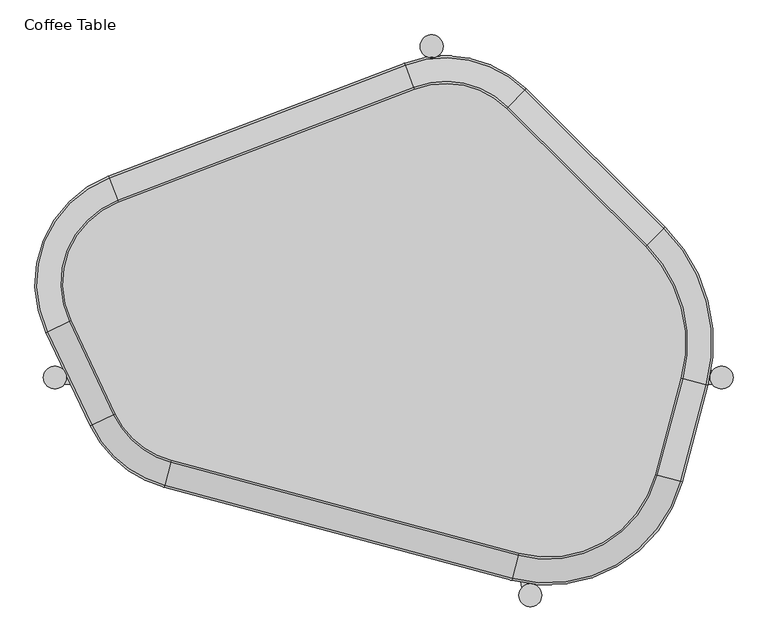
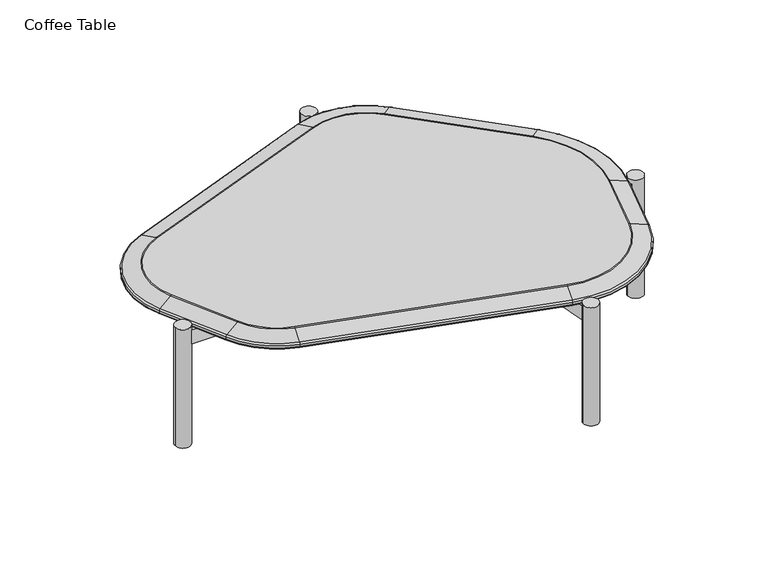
"""IFC4 building model written with IfcOpenShell, lengths in millimetres: furniture geometry, Bolia - Island - Coffee Table : Coffee Table."""

from ifc_helpers import new_model, si_unit, point, frame, origin, place, context, project, spatial, polyline, circle_curve, ellipse_curve, trimmed, source, transform, mapped, element, save
from ifc_brep_helpers import plane_surface, cylinder_surface, revolved_surface, advanced_brep


def coffee_table_8e93f0d2(model_context):
    return source(origin(), model_context, "Body", "AdvancedBrep", [
        advanced_brep(
        [(94.3219868, 12.5169958, 325.0001115), (-674.1552396, 12.5169958, 325.0001115), (-670.0171736, 0.0, 325.0001115), (-674.1426299, -12.499991, 325.0001115), (98.8206312, -12.499991, 325.0001115), (165.8112924, -385.0354313, 325.0001115), (190.4680998, -380.5880957, 325.0001115), (124.2771745, -12.499991, 325.0001115), (515.2895593, -12.499991, 325.0001115), (511.164103, 0.0, 325.0001115), (515.3021691, 12.5169958, 325.0001115), (119.77853, 12.5169958, 325.0001115), (15.3422971, 593.2874688, 325.0001115), (-9.3076646, 588.8020646, 325.0001115), (94.3219868, 12.5169958, 285.0002638), (-9.3076646, 588.8020646, 285.0002638), (15.3422971, 593.2874688, 285.0002638), (119.77853, 12.5169958, 285.0002638), (515.3021691, 12.5169958, 285.0002638), (511.164103, 0.0, 285.0002638), (515.2895593, -12.499991, 285.0002638), (124.2771745, -12.499991, 285.0002638), (190.4680998, -380.5880957, 285.0002638), (165.8112924, -385.0354313, 285.0002638), (98.8206312, -12.499991, 285.0002638), (-674.1426299, -12.499991, 285.0002638), (-670.0171736, 0.0, 285.0002638), (-674.1552396, 12.5169958, 285.0002638), (-712.0171736, 0.0, 338.1383504), (-670.0171736, 0.0, 338.1383504), (-21.0, 607.6267128, 338.1383504), (21.0, 607.6267128, 338.1383504), (511.164103, 0.0, 338.1383504), (553.164103, 0.0, 338.1383504), (160.1314131, -399.3983663, 338.1383504), (202.1314131, -399.3983663, 338.1383504), (-712.0171736, 0.0, 0.0), (-670.0171736, 0.0, 0.0), (-21.0, 607.6267128, 0.0), (21.0, 607.6267128, 0.0), (511.164103, 0.0, 0.0), (553.164103, 0.0, 0.0), (160.1314131, -399.3983663, 0.0), (202.1314131, -399.3983663, 0.0)],
        [
            (0, 1),
            (1, 2, circle_curve(frame((-691.0171736, 0.0, 325.0001115), z_axis=(0.0, 0.0, -1.0), x_axis=(1.0, 0.0, 0.0)), 21.0)),
            (2, 3, circle_curve(frame((-691.0171736, 0.0, 325.0001115), z_axis=(0.0, 0.0, -1.0), x_axis=(1.0, 0.0, 0.0)), 21.0)),
            (3, 4),
            (4, 5),
            (5, 6, circle_curve(frame((181.1314131, -399.3983663, 325.0001115), z_axis=(0.0, 0.0, -1.0), x_axis=(1.0, 0.0, 0.0)), 21.0)),
            (6, 7),
            (7, 8),
            (8, 9, circle_curve(frame((532.164103, 0.0, 325.0001115), z_axis=(0.0, 0.0, -1.0), x_axis=(1.0, 0.0, 0.0)), 21.0)),
            (9, 10, circle_curve(frame((532.164103, 0.0, 325.0001115), z_axis=(0.0, 0.0, -1.0), x_axis=(1.0, 0.0, 0.0)), 21.0)),
            (10, 11),
            (11, 12),
            (12, 13, circle_curve(frame((0.0, 607.6267128, 325.0001115), z_axis=(0.0, 0.0, -1.0), x_axis=(1.0, 0.0, 0.0)), 21.0)),
            (13, 0),
            (14, 15),
            (15, 16, circle_curve(frame((0.0, 607.6267128, 285.0002638), z_axis=(0.0, 0.0, 1.0), x_axis=(1.0, 0.0, 0.0)), 21.0)),
            (16, 17),
            (17, 18),
            (18, 19, circle_curve(frame((532.164103, 0.0, 285.0002638), z_axis=(0.0, 0.0, 1.0), x_axis=(1.0, 0.0, 0.0)), 21.0)),
            (19, 20, circle_curve(frame((532.164103, 0.0, 285.0002638), z_axis=(0.0, 0.0, 1.0), x_axis=(1.0, 0.0, 0.0)), 21.0)),
            (20, 21),
            (21, 22),
            (22, 23, circle_curve(frame((181.1314131, -399.3983663, 285.0002638), z_axis=(0.0, 0.0, 1.0), x_axis=(1.0, 0.0, 0.0)), 21.0)),
            (23, 24),
            (24, 25),
            (25, 26, circle_curve(frame((-691.0171736, 0.0, 285.0002638), z_axis=(0.0, 0.0, 1.0), x_axis=(1.0, 0.0, 0.0)), 21.0)),
            (26, 27, circle_curve(frame((-691.0171736, 0.0, 285.0002638), z_axis=(0.0, 0.0, 1.0), x_axis=(1.0, 0.0, 0.0)), 21.0)),
            (27, 14),
            (0, 14),
            (27, 1),
            (24, 4),
            (3, 25),
            (23, 5),
            (21, 7),
            (6, 22),
            (20, 8),
            (17, 11),
            (10, 18),
            (16, 12),
            (13, 15),
            (28, 29, circle_curve(frame((-691.0171736, 0.0, 338.1383504), z_axis=(0.0, 0.0, 1.0), x_axis=(1.0, 0.0, 0.0)), 21.0)),
            (29, 28, circle_curve(frame((-691.0171736, 0.0, 338.1383504), z_axis=(0.0, 0.0, 1.0), x_axis=(1.0, 0.0, 0.0)), 21.0)),
            (30, 31, circle_curve(frame((0.0, 607.6267128, 338.1383504), z_axis=(0.0, 0.0, 1.0), x_axis=(1.0, 0.0, 0.0)), 21.0)),
            (31, 30, circle_curve(frame((0.0, 607.6267128, 338.1383504), z_axis=(0.0, 0.0, 1.0), x_axis=(1.0, 0.0, 0.0)), 21.0)),
            (32, 33, circle_curve(frame((532.164103, 0.0, 338.1383504), z_axis=(0.0, 0.0, 1.0), x_axis=(1.0, 0.0, 0.0)), 21.0)),
            (33, 32, circle_curve(frame((532.164103, 0.0, 338.1383504), z_axis=(0.0, 0.0, 1.0), x_axis=(1.0, 0.0, 0.0)), 21.0)),
            (34, 35, circle_curve(frame((181.1314131, -399.3983663, 338.1383504), z_axis=(0.0, 0.0, 1.0), x_axis=(1.0, 0.0, 0.0)), 21.0)),
            (35, 34, circle_curve(frame((181.1314131, -399.3983663, 338.1383504), z_axis=(0.0, 0.0, 1.0), x_axis=(1.0, 0.0, 0.0)), 21.0)),
            (36, 37, circle_curve(frame((-691.0171736, 0.0, 0.0), z_axis=(0.0, 0.0, -1.0), x_axis=(1.0, 0.0, 0.0)), 21.0)),
            (37, 36, circle_curve(frame((-691.0171736, 0.0, 0.0), z_axis=(0.0, 0.0, -1.0), x_axis=(1.0, 0.0, 0.0)), 21.0)),
            (38, 39, circle_curve(frame((0.0, 607.6267128, 0.0), z_axis=(0.0, 0.0, -1.0), x_axis=(1.0, 0.0, 0.0)), 21.0)),
            (39, 38, circle_curve(frame((0.0, 607.6267128, 0.0), z_axis=(0.0, 0.0, -1.0), x_axis=(1.0, 0.0, 0.0)), 21.0)),
            (40, 41, circle_curve(frame((532.164103, 0.0, 0.0), z_axis=(0.0, 0.0, -1.0), x_axis=(1.0, 0.0, 0.0)), 21.0)),
            (41, 40, circle_curve(frame((532.164103, 0.0, 0.0), z_axis=(0.0, 0.0, -1.0), x_axis=(1.0, 0.0, 0.0)), 21.0)),
            (42, 43, circle_curve(frame((181.1314131, -399.3983663, 0.0), z_axis=(0.0, 0.0, -1.0), x_axis=(1.0, 0.0, 0.0)), 21.0)),
            (43, 42, circle_curve(frame((181.1314131, -399.3983663, 0.0), z_axis=(0.0, 0.0, -1.0), x_axis=(1.0, 0.0, 0.0)), 21.0)),
            (28, 36),
            (37, 26),
            (2, 29),
            (30, 38),
            (39, 31),
            (32, 9),
            (19, 40),
            (41, 33),
            (34, 42),
            (43, 35),
        ],
        [
            plane_surface(frame((-675.6225144, 12.5169958, 325.0001115), z_axis=(0.0, 0.0, 1.0), x_axis=(-1.0, 0.0, 0.0))),
            plane_surface(frame((-675.6225144, 12.5169958, 285.0002638), z_axis=(0.0, 0.0, -1.0), x_axis=(1.0, 0.0, 0.0))),
            plane_surface(frame((94.3219868, 12.5169958, 325.0001115), z_axis=(0.0, 1.0, 0.0), x_axis=(0.0, 0.0, -1.0))),
            plane_surface(frame((-685.3550178, -12.499991, 325.0001115), z_axis=(0.0, -1.0, 0.0), x_axis=(0.0, 0.0, -1.0))),
            plane_surface(frame((98.8206312, -12.499991, 325.0001115), z_axis=(-0.9842135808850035, -0.1769848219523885, 0.0), x_axis=(0.0, 0.0, -1.0))),
            plane_surface(frame((192.4240819, -391.4653229, 325.0001115), z_axis=(0.9842135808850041, 0.17698482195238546, 0.0), x_axis=(0.0, 0.0, -1.0))),
            plane_surface(frame((124.2771745, -12.499991, 325.0001115), z_axis=(0.0, -1.0, 0.0), x_axis=(0.0, 0.0, -1.0))),
            plane_surface(frame((522.4056366, 12.5169958, 325.0001115), z_axis=(0.0, 1.0, 0.0), x_axis=(0.0, 0.0, -1.0))),
            plane_surface(frame((119.77853, 12.5169958, 325.0001115), z_axis=(0.9842135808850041, 0.1769848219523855, 0.0), x_axis=(0.0, 0.0, -1.0))),
            plane_surface(frame((-12.1842137, 604.7985702, 325.0001115), z_axis=(-0.9842135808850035, -0.17698482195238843, 0.0), x_axis=(0.0, 0.0, -1.0))),
            plane_surface(frame((-670.0171736, 0.0, 338.1383504), z_axis=(0.0, 0.0, 1.0), x_axis=(0.0, 1.0, 0.0))),
            plane_surface(frame((-670.0171736, 0.0, 0.0), z_axis=(0.0, 0.0, -1.0), x_axis=(0.0, -1.0, 0.0))),
            cylinder_surface(frame((-691.0171736, 0.0, 0.0), z_axis=(0.0, 0.0, 1.0), x_axis=(1.0, 0.0, 0.0)), 21.0),
            cylinder_surface(frame((0.0, 607.6267128, 0.0), z_axis=(0.0, 0.0, 1.0), x_axis=(1.0, 0.0, 0.0)), 21.0),
            cylinder_surface(frame((532.164103, 0.0, 0.0), z_axis=(0.0, 0.0, 1.0), x_axis=(1.0, 0.0, 0.0)), 21.0),
            cylinder_surface(frame((181.1314131, -399.3983663, 0.0), z_axis=(0.0, 0.0, 1.0), x_axis=(1.0, 0.0, 0.0)), 21.0),
        ],
        [
            (0, [[1, 2, 3, 4, 5, 6, 7, 8, 9, 10, 11, 12, 13, 14]]),
            (1, [[15, 16, 17, 18, 19, 20, 21, 22, 23, 24, 25, 26, 27, 28]]),
            (2, [[29, -28, 30, -1]]),
            (3, [[31, -4, 32, -25]]),
            (4, [[-31, -24, 33, -5]]),
            (5, [[34, -7, 35, -22]]),
            (6, [[-34, -21, 36, -8]]),
            (7, [[37, -11, 38, -18]]),
            (8, [[-37, -17, 39, -12]]),
            (9, [[-29, -14, 40, -15]]),
            (10, [[41, 42]]),
            (10, [[43, 44]]),
            (10, [[45, 46]]),
            (10, [[47, 48]]),
            (11, [[49, 50]]),
            (11, [[51, 52]]),
            (11, [[53, 54]]),
            (11, [[55, 56]]),
            (12, [[-41, 57, -50, 58, -26, -32, -3, 59]]),
            (12, [[-42, -59, -2, -30, -27, -58, -49, -57]]),
            (13, [[-43, 60, -52, 61], [-13, -39, -16, -40]]),
            (13, [[-44, -61, -51, -60]]),
            (14, [[-45, 62, -9, -36, -20, 63, -54, 64]]),
            (14, [[-46, -64, -53, -63, -19, -38, -10, -62]]),
            (15, [[-47, 65, -56, 66]]),
            (15, [[-48, -66, -55, -65], [-6, -33, -23, -35]]),
        ],
    ),
        advanced_brep(
        [(-574.4524919, 321.4086629, 350.000039), (-661.2825402, 104.7602623, 350.000039), (-580.0053478, -66.2984619, 350.000039), (-477.6019635, -151.5960215, 350.000039), (160.3613364, -322.5378677, 350.000039), (410.0998783, -178.3512765, 350.000039), (457.5865801, -1.1284924, 350.000039), (392.7238419, 239.7395526, 350.000039), (137.9488708, 493.2456689, 350.000039), (-30.8395231, 529.0487896, 350.000039), (-706.6368774, 83.2105097, 325.0001115), (-592.3697043, 368.3168844, 325.0001115), (-48.7567356, 575.9570111, 325.0001115), (173.3665156, 528.8405869, 325.0001115), (428.1414867, 275.3344706, 325.0001115), (506.0892136, -14.1247339, 325.0001115), (458.6025118, -191.3475179, 325.0001115), (147.3650881, -371.0404994, 325.0001115), (-490.5982117, -200.0986532, 325.0001115), (-625.359685, -87.8482145, 325.0001115), (428.7591776, 275.9552532, 333.5931385), (428.7591776, 275.9552532, 327.8268488), (173.9842064, 529.4613694, 327.8268488), (173.9842064, 529.4613694, 333.593135), (-49.0692154, 576.7750999, 327.8268488), (-49.0692154, 576.7750999, 333.5931354), (-592.6821841, 369.1349732, 327.8268488), (-592.6821841, 369.1349732, 333.5931357), (-707.4278662, 82.8346776, 327.8268488), (-707.4278662, 82.8346776, 333.5931354), (-626.1506738, -88.2240466, 327.8268488), (-626.1506738, -88.2240466, 333.593135), (-490.8248689, -200.9445488, 327.8268488), (-490.8248689, -200.9445488, 333.5931354), (147.138431, -371.886395, 327.8268488), (147.138431, -371.886395, 333.593135), (459.4484075, -191.574175, 327.8268488), (459.4484075, -191.574175, 333.5931348), (506.9351093, -14.351391, 327.8268488), (506.9351093, -14.351391, 333.593135), (-704.0037216, 84.4616327, 338.4447678), (-664.8497783, 103.0653175, 349.2469963), (-575.8617278, 325.0981181, 349.2469963), (-591.3294772, 365.593514, 338.4447678), (-622.7265291, -86.5970915, 338.4447678), (-583.5725859, -67.9934067, 349.2469963), (-489.8436831, -197.2827154, 338.4447678), (-478.6241527, -155.4108813, 349.2469963), (148.1196168, -368.2245616, 338.4447678), (159.3391472, -326.3527275, 349.2469963), (455.7865739, -190.5929897, 338.4447678), (413.9147382, -179.3734651, 349.2469963), (503.2732758, -13.3702056, 338.4447678), (461.4014401, -2.1506811, 349.2469963), (426.0852296, 273.2679215, 338.4447678), (395.5095331, 242.5391867, 349.2469963), (171.3102584, 526.7740378, 338.4447678), (140.7345619, 496.045303, 349.2469963), (-47.7165084, 573.2336407, 338.4447678), (-32.2487591, 532.7382448, 349.2469963)],
        [
            (0, 1, circle_curve(frame((-517.7500336, 172.9585913, 350.000039), z_axis=(0.0, 0.0, 1.0), x_axis=(-0.35681976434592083, 0.9341732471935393, 0.0)), 158.9106432)),
            (1, 2),
            (2, 3, circle_curve(frame((-436.4728412, 1.8998671, 350.000039), z_axis=(0.0, 0.0, 1.0), x_axis=(-0.9032277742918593, -0.4291614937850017, 0.0)), 158.9106432)),
            (3, 4),
            (4, 5, circle_curve(frame((213.1373218, -125.5753185, 350.000039), z_axis=(0.0, 0.0, 1.0), x_axis=(-0.2588191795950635, -0.9659257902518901, 0.0)), 203.9106432)),
            (5, 6),
            (6, 7, circle_curve(frame((217.1573614, 63.2943226, 350.000039), z_axis=(0.0, 0.0, 1.0), x_axis=(0.9659258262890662, -0.2588190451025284, 0.0)), 248.9106432)),
            (7, 8),
            (8, 9, circle_curve(frame((25.8629351, 380.598718, 350.000039), z_axis=(0.0, 0.0, 1.0), x_axis=(0.7053393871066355, 0.7088697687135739, 0.0)), 158.9106432)),
            (9, 0),
            (10, 11, circle_curve(frame((-517.7500336, 172.9585913, 325.0001115), z_axis=(0.0, 0.0, -1.0), x_axis=(-0.35681976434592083, 0.9341732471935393, 0.0)), 209.1242643)),
            (11, 12),
            (12, 13, circle_curve(frame((25.8629351, 380.598718, 325.0001115), z_axis=(0.0, 0.0, -1.0), x_axis=(0.7053393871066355, 0.7088697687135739, 0.0)), 209.1242643)),
            (13, 14),
            (14, 15, circle_curve(frame((217.1573614, 63.2943226, 325.0001115), z_axis=(0.0, 0.0, -1.0), x_axis=(0.9659258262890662, -0.2588190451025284, 0.0)), 299.1242643)),
            (15, 16),
            (16, 17, circle_curve(frame((213.1373218, -125.5753185, 325.0001115), z_axis=(0.0, 0.0, -1.0), x_axis=(-0.2588191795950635, -0.9659257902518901, 0.0)), 254.1242643)),
            (17, 18),
            (18, 19, circle_curve(frame((-436.4728412, 1.8998671, 325.0001115), z_axis=(0.0, 0.0, -1.0), x_axis=(-0.9032277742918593, -0.4291614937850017, 0.0)), 209.1242643)),
            (19, 10),
            (20, 21),
            (21, 22),
            (22, 23),
            (23, 20),
            (22, 24, circle_curve(frame((25.8629351, 380.598718, 327.8268488), z_axis=(0.0, 0.0, 1.0), x_axis=(1.0, 0.0, 0.0)), 210.0)),
            (24, 25),
            (25, 23, circle_curve(frame((25.8629351, 380.598718, 333.593135), z_axis=(0.0, 0.0, -1.0), x_axis=(1.0, 0.0, 0.0)), 210.0)),
            (24, 26),
            (26, 27),
            (27, 25),
            (26, 28, circle_curve(frame((-517.7500336, 172.9585913, 327.8268488), z_axis=(0.0, 0.0, 1.0), x_axis=(1.0, 0.0, 0.0)), 210.0)),
            (28, 29),
            (29, 27, circle_curve(frame((-517.7500336, 172.9585913, 333.593135), z_axis=(0.0, 0.0, -1.0), x_axis=(1.0, 0.0, 0.0)), 210.0)),
            (28, 30),
            (30, 31),
            (31, 29),
            (30, 32, circle_curve(frame((-436.4728412, 1.8998671, 327.8268488), z_axis=(0.0, 0.0, 1.0), x_axis=(1.0, 0.0, 0.0)), 210.0)),
            (32, 33),
            (33, 31, circle_curve(frame((-436.4728412, 1.8998671, 333.593135), z_axis=(0.0, 0.0, -1.0), x_axis=(1.0, 0.0, 0.0)), 210.0)),
            (32, 34),
            (34, 35),
            (35, 33),
            (34, 36, circle_curve(frame((213.1373218, -125.5753185, 327.8268488), z_axis=(0.0, 0.0, 1.0), x_axis=(1.0, 0.0, 0.0)), 255.0)),
            (36, 37),
            (37, 35, circle_curve(frame((213.1373218, -125.5753185, 333.593135), z_axis=(0.0, 0.0, -1.0), x_axis=(1.0, 0.0, 0.0)), 255.0)),
            (36, 38),
            (38, 39),
            (39, 37),
            (20, 39, circle_curve(frame((217.1573614, 63.2943226, 333.593135), z_axis=(0.0, 0.0, -1.0), x_axis=(1.0, 0.0, 0.0)), 300.0)),
            (38, 21, circle_curve(frame((217.1573614, 63.2943226, 327.8268488), z_axis=(0.0, 0.0, 1.0), x_axis=(1.0, 0.0, 0.0)), 300.0)),
            (40, 41),
            (41, 42, circle_curve(frame((-517.7500336, 172.9585913, 349.2469963), z_axis=(0.0, 0.0, -1.0), x_axis=(-0.35681976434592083, 0.9341732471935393, 0.0)), 162.8600768)),
            (42, 43),
            (43, 40, circle_curve(frame((-517.7500336, 172.9585913, 338.4447678), z_axis=(0.0, 0.0, 1.0), x_axis=(-0.35681976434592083, 0.9341732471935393, 0.0)), 206.208991)),
            (40, 44),
            (44, 45),
            (45, 41),
            (44, 46, circle_curve(frame((-436.4728412, 1.8998671, 338.4447678), z_axis=(0.0, 0.0, 1.0), x_axis=(-0.9032277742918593, -0.4291614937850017, 0.0)), 206.208991)),
            (46, 47),
            (47, 45, circle_curve(frame((-436.4728412, 1.8998671, 349.2469963), z_axis=(0.0, 0.0, -1.0), x_axis=(-0.9032277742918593, -0.4291614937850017, 0.0)), 162.8600768)),
            (46, 48),
            (48, 49),
            (49, 47),
            (48, 50, circle_curve(frame((213.1373218, -125.5753185, 338.4447678), z_axis=(0.0, 0.0, 1.0), x_axis=(-0.2588191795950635, -0.9659257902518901, 0.0)), 251.208991)),
            (50, 51),
            (51, 49, circle_curve(frame((213.1373218, -125.5753185, 349.2469963), z_axis=(0.0, 0.0, -1.0), x_axis=(-0.2588191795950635, -0.9659257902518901, 0.0)), 207.8600768)),
            (50, 52),
            (52, 53),
            (53, 51),
            (52, 54, circle_curve(frame((217.1573614, 63.2943226, 338.4447678), z_axis=(0.0, 0.0, 1.0), x_axis=(0.9659258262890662, -0.2588190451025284, 0.0)), 296.208991)),
            (54, 55),
            (55, 53, circle_curve(frame((217.1573614, 63.2943226, 349.2469963), z_axis=(0.0, 0.0, -1.0), x_axis=(0.9659258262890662, -0.2588190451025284, 0.0)), 252.8600768)),
            (54, 56),
            (56, 57),
            (57, 55),
            (56, 58, circle_curve(frame((25.8629351, 380.598718, 338.4447678), z_axis=(0.0, 0.0, 1.0), x_axis=(0.7053393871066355, 0.7088697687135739, 0.0)), 206.208991)),
            (58, 59),
            (59, 57, circle_curve(frame((25.8629351, 380.598718, 349.2469963), z_axis=(0.0, 0.0, -1.0), x_axis=(0.7053393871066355, 0.7088697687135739, 0.0)), 162.8600768)),
            (42, 59),
            (58, 43),
            (43, 27, circle_curve(frame((-590.8980853, 364.464107, 333.593135), z_axis=(-0.9341732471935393, -0.35681976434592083, 0.0), x_axis=(0.35681976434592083, -0.9341732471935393, 0.0)), 5.0)),
            (29, 40, circle_curve(frame((-702.9117273, 84.9804851, 333.593135), z_axis=(-0.4291614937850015, 0.9032277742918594, 0.0), x_axis=(0.9032277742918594, 0.4291614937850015, 0.0)), 5.0)),
            (10, 28, circle_curve(frame((-702.9117273, 84.9804851, 327.8268488), z_axis=(-0.42916149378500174, 0.9032277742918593, 0.0), x_axis=(0.9032277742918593, 0.42916149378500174, 0.0)), 5.0)),
            (26, 11, circle_curve(frame((-590.8980853, 364.464107, 327.8268488), z_axis=(-0.9341732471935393, -0.35681976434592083, 0.0), x_axis=(0.35681976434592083, -0.9341732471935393, 0.0)), 5.0)),
            (31, 44, circle_curve(frame((-621.6345349, -86.0782391, 333.593135), z_axis=(-0.4291614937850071, 0.9032277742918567, 0.0), x_axis=(0.9032277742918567, 0.4291614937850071, 0.0)), 5.0)),
            (19, 30, circle_curve(frame((-621.6345349, -86.0782391, 327.8268488), z_axis=(-0.4291614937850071, 0.9032277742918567, 0.0), x_axis=(0.9032277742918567, 0.4291614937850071, 0.0)), 5.0)),
            (33, 46, circle_curve(frame((-489.530773, -196.1149199, 333.593135), z_axis=(-0.9659257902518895, 0.25881917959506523, 0.0), x_axis=(0.25881917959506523, 0.9659257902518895, 0.0)), 5.0)),
            (18, 32, circle_curve(frame((-489.530773, -196.1149199, 327.8268488), z_axis=(-0.9659257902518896, 0.25881917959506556, 0.0), x_axis=(0.25881917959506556, 0.9659257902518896, 0.0)), 5.0)),
            (35, 48, circle_curve(frame((148.4325269, -367.0567661, 333.593135), z_axis=(-0.9659257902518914, 0.2588191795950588, 0.0), x_axis=(0.2588191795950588, 0.9659257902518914, 0.0)), 5.0)),
            (17, 34, circle_curve(frame((148.4325269, -367.0567661, 327.8268488), z_axis=(-0.9659257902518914, 0.2588191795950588, 0.0), x_axis=(0.2588191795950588, 0.9659257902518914, 0.0)), 5.0)),
            (37, 50, circle_curve(frame((454.6187783, -190.2800798, 333.593135), z_axis=(-0.25881904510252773, -0.9659258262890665, 0.0), x_axis=(-0.9659258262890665, 0.25881904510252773, 0.0)), 5.0)),
            (16, 36, circle_curve(frame((454.6187783, -190.2800798, 327.8268488), z_axis=(-0.2588190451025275, -0.9659258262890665, 0.0), x_axis=(-0.9659258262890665, 0.2588190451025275, 0.0)), 5.0)),
            (39, 52, circle_curve(frame((502.1054802, -13.0572957, 333.593135), z_axis=(-0.25881904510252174, -0.9659258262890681, 0.0), x_axis=(-0.9659258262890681, 0.25881904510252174, 0.0)), 5.0)),
            (15, 38, circle_curve(frame((502.1054802, -13.0572957, 327.8268488), z_axis=(-0.25881904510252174, -0.9659258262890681, 0.0), x_axis=(-0.9659258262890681, 0.25881904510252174, 0.0)), 5.0)),
            (20, 54, circle_curve(frame((425.2324806, 272.4109043, 333.593135), z_axis=(0.7088697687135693, -0.70533938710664, 0.0), x_axis=(-0.70533938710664, -0.7088697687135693, 0.0)), 5.0)),
            (14, 21, circle_curve(frame((425.2324806, 272.4109043, 327.8268488), z_axis=(0.7088697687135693, -0.70533938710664, 0.0), x_axis=(-0.70533938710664, -0.7088697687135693, 0.0)), 5.0)),
            (23, 56, circle_curve(frame((170.4575095, 525.9170206, 333.593135), z_axis=(0.7088697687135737, -0.7053393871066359, 0.0), x_axis=(-0.7053393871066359, -0.7088697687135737, 0.0)), 5.0)),
            (13, 22, circle_curve(frame((170.4575095, 525.9170206, 327.8268488), z_axis=(0.7088697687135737, -0.7053393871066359, 0.0), x_axis=(-0.7053393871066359, -0.7088697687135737, 0.0)), 5.0)),
            (25, 58, circle_curve(frame((-47.2851166, 572.1042337, 333.593135), z_axis=(0.9341732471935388, 0.3568197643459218, 0.0), x_axis=(0.3568197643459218, -0.9341732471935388, 0.0)), 5.0)),
            (12, 24, circle_curve(frame((-47.2851166, 572.1042337, 327.8268488), z_axis=(0.9341732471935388, 0.3568197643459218, 0.0), x_axis=(0.3568197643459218, -0.9341732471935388, 0.0)), 5.0)),
            (41, 1, circle_curve(frame((-656.9787721, 106.8051635, 314.2768191), z_axis=(-0.42916149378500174, 0.9032277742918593, 0.0), x_axis=(0.9032277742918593, 0.42916149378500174, 0.0)), 36.039596)),
            (0, 42, circle_curve(frame((-572.7522901, 316.9574435, 314.2768191), z_axis=(-0.9341732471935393, -0.35681976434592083, 0.0), x_axis=(0.35681976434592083, -0.9341732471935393, 0.0)), 36.039596)),
            (45, 2, circle_curve(frame((-575.7015797, -64.2535607, 314.2768191), z_axis=(-0.4291614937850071, 0.9032277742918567, 0.0), x_axis=(0.9032277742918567, 0.4291614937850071, 0.0)), 36.039596)),
            (47, 3, circle_curve(frame((-476.3687223, -146.9935052, 314.2768191), z_axis=(-0.9659257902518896, 0.25881917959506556, 0.0), x_axis=(0.25881917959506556, 0.9659257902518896, 0.0)), 36.039596)),
            (49, 4, circle_curve(frame((161.5945776, -317.9353514, 314.2768191), z_axis=(-0.9659257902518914, 0.2588191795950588, 0.0), x_axis=(0.2588191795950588, 0.9659257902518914, 0.0)), 36.039596)),
            (51, 5, circle_curve(frame((405.4973618, -177.1180359, 314.2768191), z_axis=(-0.25881904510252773, -0.9659258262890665, 0.0), x_axis=(-0.9659258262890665, 0.25881904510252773, 0.0)), 36.039596)),
            (53, 6, circle_curve(frame((452.9840637, 0.1047481, 314.2768191), z_axis=(-0.25881904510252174, -0.9659258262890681, 0.0), x_axis=(-0.9659258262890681, 0.25881904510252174, 0.0)), 36.039596)),
            (55, 7, circle_curve(frame((389.3629875, 236.3618763, 314.2768191), z_axis=(0.7088697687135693, -0.70533938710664, 0.0), x_axis=(-0.70533938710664, -0.7088697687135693, 0.0)), 36.039596)),
            (57, 8, circle_curve(frame((134.5880163, 489.8679926, 314.2768191), z_axis=(0.7088697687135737, -0.7053393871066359, 0.0), x_axis=(-0.7053393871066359, -0.7088697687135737, 0.0)), 36.039596)),
            (59, 9, circle_curve(frame((-29.1393213, 524.5975702, 314.2768191), z_axis=(0.9341732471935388, 0.3568197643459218, 0.0), x_axis=(0.3568197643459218, -0.9341732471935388, 0.0)), 36.039596)),
        ],
        [
            plane_surface(frame((-170.9690123, 872.6966189, 350.000039), z_axis=(0.0, 0.0, 1.0000000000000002), x_axis=(-0.7088697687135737, 0.7053393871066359, 0.0))),
            plane_surface(frame((-170.9690123, 872.6966189, 325.0001115), z_axis=(0.0, 0.0, -1.0000000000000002), x_axis=(0.7088697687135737, -0.7053393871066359, 0.0))),
            plane_surface(frame((428.7591776, 275.9552532, 350.000039), z_axis=(0.7053393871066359, 0.7088697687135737, 0.0), x_axis=(0.0, 0.0, -1.0))),
            cylinder_surface(frame((25.8629351, 380.598718, 325.0001115), z_axis=(0.0, 0.0, 1.0), x_axis=(1.0, 0.0, 0.0)), 210.0),
            plane_surface(frame((-49.0692154, 576.7750999, 350.000039), z_axis=(-0.35681976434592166, 0.934173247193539, 0.0), x_axis=(0.0, 0.0, -1.0))),
            cylinder_surface(frame((-517.7500336, 172.9585913, 325.0001115), z_axis=(0.0, 0.0, 1.0), x_axis=(1.0, 0.0, 0.0)), 210.0),
            plane_surface(frame((-707.4278662, 82.8346776, 350.000039), z_axis=(-0.9032277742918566, -0.4291614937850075, 0.0), x_axis=(0.0, 0.0, -1.0))),
            cylinder_surface(frame((-436.4728412, 1.8998671, 325.0001115), z_axis=(0.0, 0.0, 1.0), x_axis=(1.0, 0.0, 0.0)), 210.0),
            plane_surface(frame((-490.8248689, -200.9445488, 350.000039), z_axis=(-0.25881917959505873, -0.9659257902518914, 0.0), x_axis=(0.0, 0.0, -1.0))),
            cylinder_surface(frame((213.1373218, -125.5753185, 325.0001115), z_axis=(0.0, 0.0, 1.0), x_axis=(1.0, 0.0, 0.0)), 255.0),
            plane_surface(frame((459.4484075, -191.574175, 350.000039), z_axis=(0.965925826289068, -0.2588190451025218, 0.0), x_axis=(0.0, 0.0, -1.0))),
            cylinder_surface(frame((217.1573614, 63.2943226, 325.0001115), z_axis=(0.0, 0.0, 1.0), x_axis=(1.0, 0.0, 0.0)), 300.0),
            revolved_surface(polyline([(-591.3294772, 365.593514, 338.4447678), (-575.8617278, 325.0981181, 349.2469963)]), (-517.7500336, 172.9585913, 0.0), (0.0, 0.0, 1.0)),
            plane_surface(frame((-664.8497783, 103.0653175, 349.2469963), z_axis=(-0.21839884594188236, -0.10377047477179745, 0.9703265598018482), x_axis=(0.4291614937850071, -0.9032277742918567, 0.0))),
            revolved_surface(polyline([(-622.7265291, -86.5970915, 338.4447678), (-583.5725859, -67.9934067, 349.2469963)]), (-436.4728412, 1.8998671, 0.0), (0.0, 0.0, 1.0)),
            plane_surface(frame((-478.6241527, -155.4108813, 349.2469963), z_axis=(-0.06258201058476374, -0.2335591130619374, 0.9703265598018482), x_axis=(0.9659257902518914, -0.2588191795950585, 0.0))),
            revolved_surface(polyline([(148.1196168, -368.2245616, 338.4447678), (159.3391472, -326.3527275, 349.2469963)]), (213.1373218, -125.5753185, 0.0), (0.0, 0.0, 1.0)),
            plane_surface(frame((413.9147382, -179.3734651, 349.2469963), z_axis=(0.23355912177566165, -0.06258197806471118, 0.9703265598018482), x_axis=(0.25881904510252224, 0.9659258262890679, 0.0))),
            revolved_surface(polyline([(503.2732758, -13.3702056, 338.4447678), (461.4014401, -2.1506811, 349.2469963)]), (217.1573614, 63.2943226, 0.0), (0.0, 0.0, 1.0)),
            plane_surface(frame((395.5095331, 242.5391867, 349.2469963), z_axis=(0.17054979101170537, 0.17140343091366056, 0.9703265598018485), x_axis=(-0.7088697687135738, 0.7053393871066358, 0.0))),
            revolved_surface(polyline([(171.3102584, 526.7740378, 338.4447678), (140.7345619, 496.045303, 349.2469963)]), (25.8629351, 380.598718, 0.0), (0.0, 0.0, 1.0)),
            plane_surface(frame((-32.2487591, 532.7382448, 349.2469963), z_axis=(-0.08627837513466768, 0.22588140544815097, 0.9703265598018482), x_axis=(-0.934173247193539, -0.3568197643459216, 0.0))),
            revolved_surface(trimmed(ellipse_curve(frame((-590.8980853, 364.464107, 333.593135), z_axis=(0.9341732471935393, 0.35681976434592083, 0.0), x_axis=(0.35681976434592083, -0.9341732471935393, 0.0)), 5.0, 5.0), [point((-592.6821841, 369.1349732, 333.593135))], [point((-591.3294772, 365.593514, 338.4447678))], True, "CARTESIAN"), (-517.7500336, 172.9585913, 0.0), (0.0, 0.0, 1.0)),
            revolved_surface(trimmed(ellipse_curve(frame((-590.8980853, 364.464107, 327.8268488), z_axis=(0.9341732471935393, 0.35681976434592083, 0.0), x_axis=(0.35681976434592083, -0.9341732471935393, 0.0)), 5.0, 5.0), [point((-591.3294772, 365.593514, 322.975216))], [point((-592.6821841, 369.1349732, 327.8268488))], True, "CARTESIAN"), (-517.7500336, 172.9585913, 0.0), (0.0, 0.0, 1.0)),
            cylinder_surface(frame((-702.9117273, 84.9804851, 333.593135), z_axis=(0.4291614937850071, -0.9032277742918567, 0.0), x_axis=(0.9032277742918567, 0.4291614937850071, 0.0)), 5.0),
            cylinder_surface(frame((-702.9117273, 84.9804851, 327.8268488), z_axis=(0.4291614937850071, -0.9032277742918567, 0.0), x_axis=(0.9032277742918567, 0.4291614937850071, 0.0)), 5.0),
            revolved_surface(trimmed(ellipse_curve(frame((-621.6345349, -86.0782391, 333.593135), z_axis=(-0.4291614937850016, 0.9032277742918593, 0.0), x_axis=(0.9032277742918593, 0.4291614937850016, 0.0)), 5.0, 5.0), [point((-626.1506738, -88.2240466, 333.593135))], [point((-622.7265291, -86.5970915, 338.4447678))], True, "CARTESIAN"), (-436.4728412, 1.8998671, 0.0), (0.0, 0.0, 1.0)),
            revolved_surface(trimmed(ellipse_curve(frame((-621.6345349, -86.0782391, 327.8268488), z_axis=(-0.4291614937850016, 0.9032277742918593, 0.0), x_axis=(0.9032277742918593, 0.4291614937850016, 0.0)), 5.0, 5.0), [point((-622.7265291, -86.5970915, 322.975216))], [point((-626.1506738, -88.2240466, 327.8268488))], True, "CARTESIAN"), (-436.4728412, 1.8998671, 0.0), (0.0, 0.0, 1.0)),
            cylinder_surface(frame((-489.530773, -196.1149199, 333.593135), z_axis=(0.9659257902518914, -0.2588191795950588, 0.0), x_axis=(0.2588191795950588, 0.9659257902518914, 0.0)), 5.0),
            cylinder_surface(frame((-489.530773, -196.1149199, 327.8268488), z_axis=(0.9659257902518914, -0.2588191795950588, 0.0), x_axis=(0.2588191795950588, 0.9659257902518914, 0.0)), 5.0),
            revolved_surface(trimmed(ellipse_curve(frame((148.4325269, -367.0567661, 333.593135), z_axis=(-0.9659257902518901, 0.25881917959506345, 0.0), x_axis=(0.25881917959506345, 0.9659257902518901, 0.0)), 5.0, 5.0), [point((147.138431, -371.886395, 333.593135))], [point((148.1196168, -368.2245616, 338.4447678))], True, "CARTESIAN"), (213.1373218, -125.5753185, 0.0), (0.0, 0.0, 1.0)),
            revolved_surface(trimmed(ellipse_curve(frame((148.4325269, -367.0567661, 327.8268488), z_axis=(-0.9659257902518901, 0.25881917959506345, 0.0), x_axis=(0.25881917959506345, 0.9659257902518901, 0.0)), 5.0, 5.0), [point((148.1196168, -368.2245616, 322.975216))], [point((147.138431, -371.886395, 327.8268488))], True, "CARTESIAN"), (213.1373218, -125.5753185, 0.0), (0.0, 0.0, 1.0)),
            cylinder_surface(frame((454.6187783, -190.2800798, 333.593135), z_axis=(0.25881904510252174, 0.9659258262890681, 0.0), x_axis=(-0.9659258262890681, 0.25881904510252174, 0.0)), 5.0),
            cylinder_surface(frame((454.6187783, -190.2800798, 327.8268488), z_axis=(0.25881904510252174, 0.9659258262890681, 0.0), x_axis=(-0.9659258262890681, 0.25881904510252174, 0.0)), 5.0),
            revolved_surface(trimmed(ellipse_curve(frame((502.1054802, -13.0572957, 333.593135), z_axis=(-0.2588190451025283, -0.9659258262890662, 0.0), x_axis=(-0.9659258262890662, 0.2588190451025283, 0.0)), 5.0, 5.0), [point((506.9351093, -14.351391, 333.593135))], [point((503.2732758, -13.3702056, 338.4447678))], True, "CARTESIAN"), (217.1573614, 63.2943226, 0.0), (0.0, 0.0, 1.0)),
            revolved_surface(trimmed(ellipse_curve(frame((502.1054802, -13.0572957, 327.8268488), z_axis=(-0.2588190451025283, -0.9659258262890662, 0.0), x_axis=(-0.9659258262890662, 0.2588190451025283, 0.0)), 5.0, 5.0), [point((503.2732758, -13.3702056, 322.975216))], [point((506.9351093, -14.351391, 327.8268488))], True, "CARTESIAN"), (217.1573614, 63.2943226, 0.0), (0.0, 0.0, 1.0)),
            cylinder_surface(frame((425.2324806, 272.4109043, 333.593135), z_axis=(-0.7088697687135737, 0.7053393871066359, 0.0), x_axis=(-0.7053393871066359, -0.7088697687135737, 0.0)), 5.0),
            cylinder_surface(frame((425.2324806, 272.4109043, 327.8268488), z_axis=(-0.7088697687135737, 0.7053393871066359, 0.0), x_axis=(-0.7053393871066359, -0.7088697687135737, 0.0)), 5.0),
            revolved_surface(trimmed(ellipse_curve(frame((170.4575095, 525.9170206, 333.593135), z_axis=(0.7088697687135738, -0.7053393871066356, 0.0), x_axis=(-0.7053393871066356, -0.7088697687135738, 0.0)), 5.0, 5.0), [point((173.9842064, 529.4613694, 333.593135))], [point((171.3102584, 526.7740378, 338.4447678))], True, "CARTESIAN"), (25.8629351, 380.598718, 0.0), (0.0, 0.0, 1.0)),
            revolved_surface(trimmed(ellipse_curve(frame((170.4575095, 525.9170206, 327.8268488), z_axis=(0.7088697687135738, -0.7053393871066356, 0.0), x_axis=(-0.7053393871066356, -0.7088697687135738, 0.0)), 5.0, 5.0), [point((171.3102584, 526.7740378, 322.975216))], [point((173.9842064, 529.4613694, 327.8268488))], True, "CARTESIAN"), (25.8629351, 380.598718, 0.0), (0.0, 0.0, 1.0)),
            cylinder_surface(frame((-47.2851166, 572.1042337, 333.593135), z_axis=(-0.9341732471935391, -0.3568197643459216, 0.0), x_axis=(0.3568197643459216, -0.9341732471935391, 0.0)), 5.0),
            cylinder_surface(frame((-47.2851166, 572.1042337, 327.8268488), z_axis=(-0.9341732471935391, -0.3568197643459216, 0.0), x_axis=(0.3568197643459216, -0.9341732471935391, 0.0)), 5.0),
            revolved_surface(trimmed(ellipse_curve(frame((-572.7522901, 316.9574435, 314.2768191), z_axis=(0.9341732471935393, 0.35681976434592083, 0.0), x_axis=(0.35681976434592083, -0.9341732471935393, 0.0)), 36.039596, 36.039596), [point((-575.8617278, 325.0981181, 349.2469963))], [point((-574.4524919, 321.4086629, 350.000039))], True, "CARTESIAN"), (-517.7500336, 172.9585913, 0.0), (0.0, 0.0, 1.0)),
            cylinder_surface(frame((-656.9787721, 106.8051635, 314.2768191), z_axis=(0.4291614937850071, -0.9032277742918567, 0.0), x_axis=(0.9032277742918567, 0.4291614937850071, 0.0)), 36.039596),
            revolved_surface(trimmed(ellipse_curve(frame((-575.7015797, -64.2535607, 314.2768191), z_axis=(-0.4291614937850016, 0.9032277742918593, 0.0), x_axis=(0.9032277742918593, 0.4291614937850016, 0.0)), 36.039596, 36.039596), [point((-583.5725859, -67.9934067, 349.2469963))], [point((-580.0053478, -66.2984619, 350.000039))], True, "CARTESIAN"), (-436.4728412, 1.8998671, 0.0), (0.0, 0.0, 1.0)),
            cylinder_surface(frame((-476.3687223, -146.9935052, 314.2768191), z_axis=(0.9659257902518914, -0.2588191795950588, 0.0), x_axis=(0.2588191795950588, 0.9659257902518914, 0.0)), 36.039596),
            revolved_surface(trimmed(ellipse_curve(frame((161.5945776, -317.9353514, 314.2768191), z_axis=(-0.9659257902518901, 0.25881917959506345, 0.0), x_axis=(0.25881917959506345, 0.9659257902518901, 0.0)), 36.039596, 36.039596), [point((159.3391472, -326.3527275, 349.2469963))], [point((160.3613364, -322.5378677, 350.000039))], True, "CARTESIAN"), (213.1373218, -125.5753185, 0.0), (0.0, 0.0, 1.0)),
            cylinder_surface(frame((405.4973618, -177.1180359, 314.2768191), z_axis=(0.25881904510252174, 0.9659258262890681, 0.0), x_axis=(-0.9659258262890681, 0.25881904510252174, 0.0)), 36.039596),
            revolved_surface(trimmed(ellipse_curve(frame((452.9840637, 0.1047481, 314.2768191), z_axis=(-0.2588190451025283, -0.9659258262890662, 0.0), x_axis=(-0.9659258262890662, 0.2588190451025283, 0.0)), 36.039596, 36.039596), [point((461.4014401, -2.1506811, 349.2469963))], [point((457.5865801, -1.1284924, 350.000039))], True, "CARTESIAN"), (217.1573614, 63.2943226, 0.0), (0.0, 0.0, 1.0)),
            cylinder_surface(frame((389.3629875, 236.3618763, 314.2768191), z_axis=(-0.7088697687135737, 0.7053393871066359, 0.0), x_axis=(-0.7053393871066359, -0.7088697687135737, 0.0)), 36.039596),
            revolved_surface(trimmed(ellipse_curve(frame((134.5880163, 489.8679926, 314.2768191), z_axis=(0.7088697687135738, -0.7053393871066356, 0.0), x_axis=(-0.7053393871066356, -0.7088697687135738, 0.0)), 36.039596, 36.039596), [point((140.7345619, 496.045303, 349.2469963))], [point((137.9488708, 493.2456689, 350.000039))], True, "CARTESIAN"), (25.8629351, 380.598718, 0.0), (0.0, 0.0, 1.0)),
            cylinder_surface(frame((-29.1393213, 524.5975702, 314.2768191), z_axis=(-0.9341732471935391, -0.3568197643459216, 0.0), x_axis=(0.3568197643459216, -0.9341732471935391, 0.0)), 36.039596),
        ],
        [
            (0, [[1, 2, 3, 4, 5, 6, 7, 8, 9, 10]]),
            (1, [[11, 12, 13, 14, 15, 16, 17, 18, 19, 20]]),
            (2, [[21, 22, 23, 24]]),
            (3, [[-23, 25, 26, 27]]),
            (4, [[-26, 28, 29, 30]]),
            (5, [[-29, 31, 32, 33]]),
            (6, [[-32, 34, 35, 36]]),
            (7, [[-35, 37, 38, 39]]),
            (8, [[-38, 40, 41, 42]]),
            (9, [[-41, 43, 44, 45]]),
            (10, [[-44, 46, 47, 48]]),
            (11, [[-21, 49, -47, 50]]),
            (12, [[51, 52, 53, 54]]),
            (13, [[-51, 55, 56, 57]]),
            (14, [[-56, 58, 59, 60]]),
            (15, [[-59, 61, 62, 63]]),
            (16, [[-62, 64, 65, 66]]),
            (17, [[-65, 67, 68, 69]]),
            (18, [[-68, 70, 71, 72]]),
            (19, [[-71, 73, 74, 75]]),
            (20, [[-74, 76, 77, 78]]),
            (21, [[-53, 79, -77, 80]]),
            (22, [[-54, 81, -33, 82]]),
            (23, [[83, -31, 84, -11]]),
            (24, [[-55, -82, -36, 85]]),
            (25, [[-83, -20, 86, -34]]),
            (26, [[-58, -85, -39, 87]]),
            (27, [[-86, -19, 88, -37]]),
            (28, [[-61, -87, -42, 89]]),
            (29, [[-88, -18, 90, -40]]),
            (30, [[-64, -89, -45, 91]]),
            (31, [[-90, -17, 92, -43]]),
            (32, [[-67, -91, -48, 93]]),
            (33, [[-92, -16, 94, -46]]),
            (34, [[-70, -93, -49, 95]]),
            (35, [[-94, -15, 96, -50]]),
            (36, [[-73, -95, -24, 97]]),
            (37, [[-96, -14, 98, -22]]),
            (38, [[-76, -97, -27, 99]]),
            (39, [[-98, -13, 100, -25]]),
            (40, [[-80, -99, -30, -81]]),
            (41, [[-100, -12, -84, -28]]),
            (42, [[-52, 101, -1, 102]]),
            (43, [[-57, 103, -2, -101]]),
            (44, [[-60, 104, -3, -103]]),
            (45, [[-63, 105, -4, -104]]),
            (46, [[-66, 106, -5, -105]]),
            (47, [[-69, 107, -6, -106]]),
            (48, [[-72, 108, -7, -107]]),
            (49, [[-75, 109, -8, -108]]),
            (50, [[-78, 110, -9, -109]]),
            (51, [[-79, -102, -10, -110]]),
        ],
    ),
    ])


if __name__ == "__main__":
    model = new_model("IFC4")
    model_context = context("Model", 3, world=origin())
    ifc_project = project(units=[si_unit("LENGTHUNIT", "METRE", prefix="MILLI")], contexts=[model_context])
    site = spatial("IfcSite", under=ifc_project)
    building = spatial("IfcBuilding", under=site)
    placement = place(None, origin())
    coffee_table_shape = coffee_table_8e93f0d2(model_context)
    element("IfcFurniture", 1, ObjectType="Bolia - Island - Coffee Table : Coffee Table", at=placement, inside=building, context=model_context, shape_type="MappedRepresentation", body=[
        mapped(coffee_table_shape, transform((0.0, 0.0, 0.0), x_axis=(1.0, 0.0, 0.0), y_axis=(0.0, 1.0, 0.0), z_axis=(0.0, 0.0, 1.0))),
    ])
    save(model, "model.ifc")
